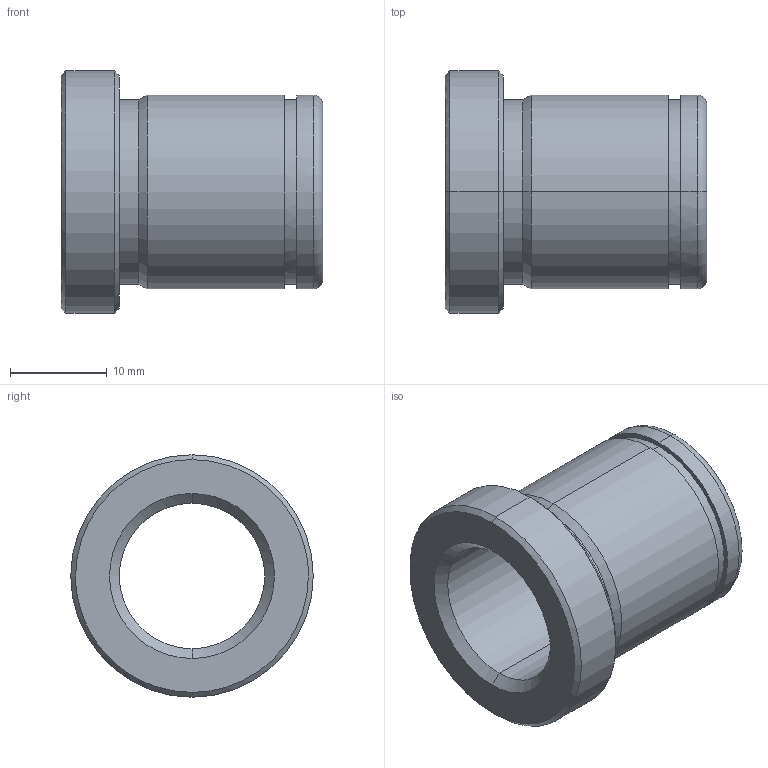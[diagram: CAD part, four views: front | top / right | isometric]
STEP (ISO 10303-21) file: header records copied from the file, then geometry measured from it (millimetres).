
FILE_DESCRIPTION(('CATIA V5 STEP Exchange'),'2;1');
FILE_NAME('C:\Users\Utente\Desktop\IO LAVORO\3D X SITO CF\X SITO\PLASTICA\553\553-15X27.stp','2021-05-21T18:39:03+00:00',('none'),('none'),'CATIA Version 5 Release 20 GA (IN-10)','CATIA V5 STEP AP203','none');
FILE_SCHEMA(('CONFIG_CONTROL_DESIGN'));
Length unit declared in the file: millimetre
Products named in the file (1): 553-15X27
Bounding box: 27 x 25 x 25 mm (x, y, z)
Volume: 4575.9 mm3; surface area: 3650 mm2
Topology: 1 solids, 1 shells, 28 faces, 88 edges, 64 vertices
Faces by surface type: cylinder 12, cone 8, plane 4, torus 4
Entity records: 1176 total; most frequent: CARTESIAN_POINT 359, ORIENTED_EDGE 176, DIRECTION 130, EDGE_CURVE 88, AXIS2_PLACEMENT_3D 83, VERTEX_POINT 64, CIRCLE 54, EDGE_LOOP 32
